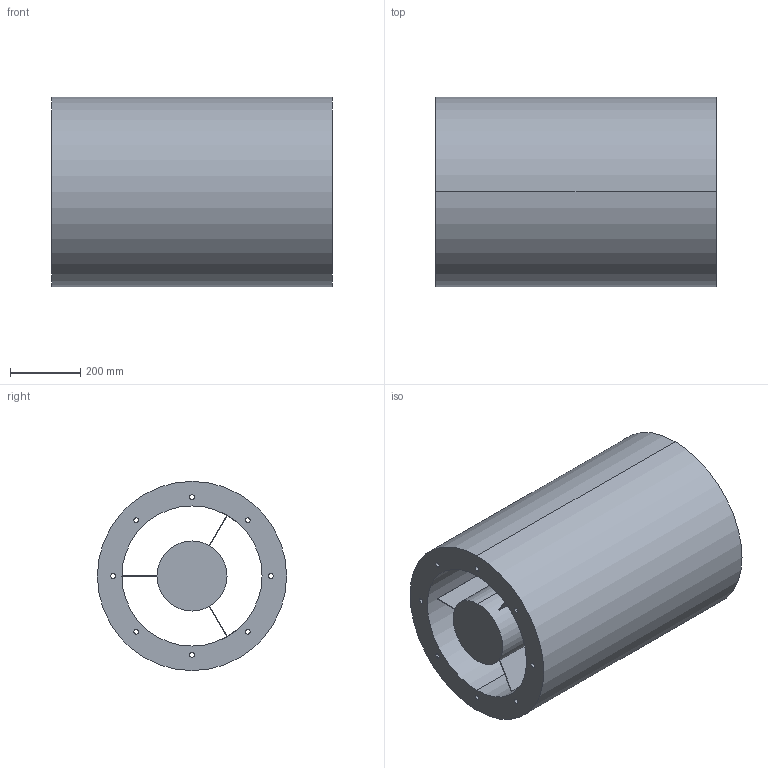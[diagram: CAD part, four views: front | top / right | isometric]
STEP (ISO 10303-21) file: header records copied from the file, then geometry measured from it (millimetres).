
FILE_DESCRIPTION(('STEP AP214'),'1');
FILE_NAME('accessory_5211813500.stp','2017-10-09T11:36:51',('TraceParts'),('TraceParts S.A.'),'Spatial InterOp 3D',' ',' ');
FILE_SCHEMA(('automotive_design'));
Length unit declared in the file: millimetre
Products named in the file (1): accessory_5211813500
Bounding box: 800 x 540 x 540 mm (x, y, z)
Volume: 104815578.6 mm3; surface area: 3721190.4 mm2
Topology: 1 solids, 1 shells, 40 faces, 107 edges, 71 vertices
Faces by surface type: cylinder 22, plane 16, torus 2
Entity records: 1664 total; most frequent: DIRECTION 250, CARTESIAN_POINT 219, ORIENTED_EDGE 214, EDGE_CURVE 107, AXIS2_PLACEMENT_3D 102, VERTEX_POINT 71, EDGE_LOOP 64, CIRCLE 61
